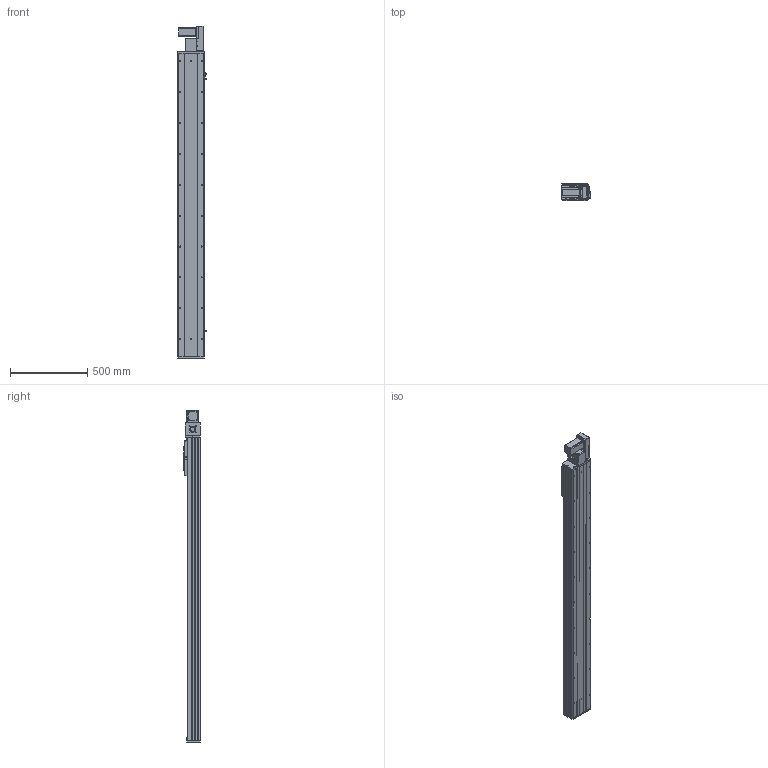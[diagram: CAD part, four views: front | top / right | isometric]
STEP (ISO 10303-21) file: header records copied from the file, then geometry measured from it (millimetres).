
FILE_DESCRIPTION (( 'STEP AP203' ), '1' );
FILE_NAME ('Y170CB-D105-S1650-BR-P400W.STEP', '2020-02-19T09:27:21', ( '微软用户' ), ( '微软中国' ), 'SwSTEP 2.0', 'SolidWorks 2017', '' );
FILE_SCHEMA (( 'CONFIG_CONTROL_DESIGN' ));
Length unit declared in the file: millimetre
Products named in the file (17): 70CB-耜裔啣-; 70B喘謫眊----; B-源倛裔啣; 17B-耜蚾蟀諉啣----; 70C--詩湍揤踡え-; 70CB--耜裔; 70C-雄赽釱-奻-; 0C--雄赽釱俋欶-170; 70CB-詩湍--; Y100-135俋离換覜ん--; 0B-萇儂楊擘啣; san松下电机400不带刹车----; Y70俋欶BR----; 70CB-掛极-; --70CB --喘謫眊楊擘啣-; Y170CB-陔俋离換覜結え---; Y170CB-D105-S1650-BR-P400W
Assembly tree (20 placements, depth 2):
  Y170CB-D105-S1650-BR-P400W
    70B喘謫眊----
    B-源倛裔啣
    17B-耜蚾蟀諉啣----
    0B-萇儂楊擘啣
    san松下电机400不带刹车----
    Y70俋欶BR----
    70CB-掛极-
    --70CB --喘謫眊楊擘啣-
    70CB-耜裔啣-  x2
    70C--詩湍揤踡え-  x2
    70CB--耜裔
    70C-雄赽釱-奻-
    0C--雄赽釱俋欶-170
    70CB-詩湍--
    Y100-135俋离換覜ん--  x3
    Y170CB-陔俋离換覜結え---
Bounding box: 183.5 x 107 x 2147 mm (x, y, z)
Volume: 9091992.1 mm3; surface area: 3265428.3 mm2
Topology: 20 solids, 20 shells, 1017 faces, 2729 edges, 1810 vertices
Faces by surface type: cylinder 531, plane 462, cone 24
Entity records: 32335 total; most frequent: CARTESIAN_POINT 5961, DIRECTION 5260, ORIENTED_EDGE 4940, EDGE_CURVE 2470, AXIS2_PLACEMENT_3D 1925, VERTEX_POINT 1640, VECTOR 1410, LINE 1410
